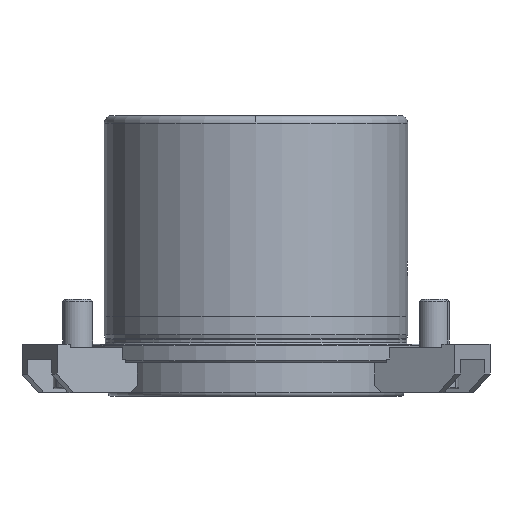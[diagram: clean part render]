
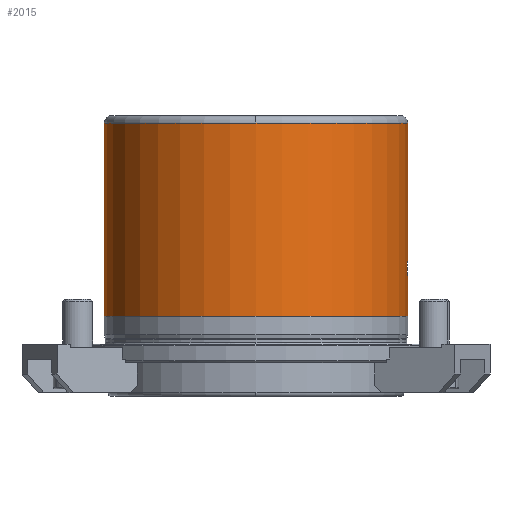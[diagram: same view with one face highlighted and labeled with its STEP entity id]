
A CAD part, front view. The second image highlights one B-rep face of the part: STEP entity #2015.
In plain terms, the highlighted cylindrical face has radius 40.495 mm (diameter 80.99 mm), a partial arc.
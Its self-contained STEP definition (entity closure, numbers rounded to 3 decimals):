
#954=CARTESIAN_POINT('',(40.495,0.,7.4));
#955=VERTEX_POINT('',#954);
#956=CARTESIAN_POINT('',(40.495,0.,17.4));
#957=VERTEX_POINT('',#956);
#958=CARTESIAN_POINT('',(40.495,0.,7.4));
#959=DIRECTION('',(0.0,0.0,1.0));
#960=VECTOR('',#959,10.);
#961=LINE('',#958,#960);
#962=EDGE_CURVE('',#955,#957,#961,.T.);
#964=CARTESIAN_POINT('',(-40.495,0.,7.4));
#965=VERTEX_POINT('',#964);
#973=CARTESIAN_POINT('',(-40.495,0.,59.));
#974=VERTEX_POINT('',#973);
#975=CARTESIAN_POINT('',(-40.495,0.,7.4));
#976=DIRECTION('',(0.0,0.0,1.0));
#977=VECTOR('',#976,51.6);
#978=LINE('',#975,#977);
#979=EDGE_CURVE('',#965,#974,#978,.T.);
#990=CARTESIAN_POINT('',(40.495,0.,59.0));
#991=VERTEX_POINT('',#990);
#999=CARTESIAN_POINT('',(40.495,0.,22.6));
#1000=VERTEX_POINT('',#999);
#1001=CARTESIAN_POINT('',(40.495,0.,22.6));
#1002=DIRECTION('',(0.0,0.0,1.0));
#1003=VECTOR('',#1002,36.4);
#1004=LINE('',#1001,#1003);
#1005=EDGE_CURVE('',#1000,#991,#1004,.T.);
#1062=CARTESIAN_POINT('',(0.,-40.495,59.0));
#1063=VERTEX_POINT('',#1062);
#1064=CARTESIAN_POINT('',(0.0,0.,59.0));
#1065=DIRECTION('',(0.0,0.0,-1.0));
#1066=DIRECTION('',(1.0,0.0,0.0));
#1067=AXIS2_PLACEMENT_3D('',#1064,#1065,#1066);
#1068=CIRCLE('',#1067,40.495);
#1069=EDGE_CURVE('',#1063,#974,#1068,.T.);
#1513=CARTESIAN_POINT('',(40.411,-2.6,20.0));
#1514=VERTEX_POINT('',#1513);
#1515=CARTESIAN_POINT('',(40.411,-2.6,20.0));
#1516=CARTESIAN_POINT('',(40.411,-2.6,20.163));
#1517=CARTESIAN_POINT('',(40.412,-2.584,20.332));
#1518=CARTESIAN_POINT('',(40.417,-2.519,20.668));
#1519=CARTESIAN_POINT('',(40.42,-2.468,20.835));
#1520=CARTESIAN_POINT('',(40.428,-2.336,21.155));
#1521=CARTESIAN_POINT('',(40.432,-2.253,21.309));
#1522=CARTESIAN_POINT('',(40.443,-2.062,21.593));
#1523=CARTESIAN_POINT('',(40.448,-1.954,21.723));
#1524=CARTESIAN_POINT('',(40.458,-1.723,21.954));
#1525=CARTESIAN_POINT('',(40.464,-1.593,22.062));
#1526=CARTESIAN_POINT('',(40.474,-1.309,22.253));
#1527=CARTESIAN_POINT('',(40.479,-1.155,22.336));
#1528=CARTESIAN_POINT('',(40.487,-0.835,22.468));
#1529=CARTESIAN_POINT('',(40.49,-0.668,22.519));
#1530=CARTESIAN_POINT('',(40.494,-0.332,22.584));
#1531=CARTESIAN_POINT('',(40.495,-0.163,22.6));
#1532=CARTESIAN_POINT('',(40.495,0.,22.6));
#1533=B_SPLINE_CURVE_WITH_KNOTS('',3,(#1515,#1516,#1517,#1518,#1519,#1520,#1521,#1522,#1523,#1524,#1525,#1526,#1527,#1528,#1529,#1530,#1531,#1532),.UNSPECIFIED.,.F.,.U.,(4,2,2,2,2,2,2,2,4),(0.0,0.49,0.98,1.47,1.959,2.449,2.939,3.429,3.919),.UNSPECIFIED.);
#1534=EDGE_CURVE('',#1514,#1000,#1533,.T.);
#1536=CARTESIAN_POINT('',(40.495,0.,17.4));
#1537=CARTESIAN_POINT('',(40.495,-0.163,17.4));
#1538=CARTESIAN_POINT('',(40.494,-0.332,17.416));
#1539=CARTESIAN_POINT('',(40.49,-0.668,17.481));
#1540=CARTESIAN_POINT('',(40.487,-0.835,17.532));
#1541=CARTESIAN_POINT('',(40.479,-1.155,17.664));
#1542=CARTESIAN_POINT('',(40.474,-1.309,17.747));
#1543=CARTESIAN_POINT('',(40.464,-1.593,17.938));
#1544=CARTESIAN_POINT('',(40.458,-1.723,18.046));
#1545=CARTESIAN_POINT('',(40.448,-1.954,18.277));
#1546=CARTESIAN_POINT('',(40.443,-2.062,18.407));
#1547=CARTESIAN_POINT('',(40.432,-2.253,18.691));
#1548=CARTESIAN_POINT('',(40.428,-2.336,18.845));
#1549=CARTESIAN_POINT('',(40.42,-2.468,19.165));
#1550=CARTESIAN_POINT('',(40.417,-2.519,19.332));
#1551=CARTESIAN_POINT('',(40.412,-2.584,19.668));
#1552=CARTESIAN_POINT('',(40.411,-2.6,19.837));
#1553=CARTESIAN_POINT('',(40.411,-2.6,20.0));
#1554=B_SPLINE_CURVE_WITH_KNOTS('',3,(#1536,#1537,#1538,#1539,#1540,#1541,#1542,#1543,#1544,#1545,#1546,#1547,#1548,#1549,#1550,#1551,#1552,#1553),.UNSPECIFIED.,.F.,.U.,(4,2,2,2,2,2,2,2,4),(11.756,12.246,12.736,13.226,13.715,14.205,14.695,15.185,15.675),.UNSPECIFIED.);
#1555=EDGE_CURVE('',#957,#1514,#1554,.T.);
#1983=CARTESIAN_POINT('',(0.0,0.,59.0));
#1984=DIRECTION('',(0.0,0.0,-1.0));
#1985=DIRECTION('',(1.0,0.0,0.0));
#1986=AXIS2_PLACEMENT_3D('',#1983,#1984,#1985);
#1987=CIRCLE('',#1986,40.495);
#1988=EDGE_CURVE('',#991,#1063,#1987,.T.);
#1994=CARTESIAN_POINT('',(0.0,0.,33.2));
#1995=DIRECTION('',(0.0,0.,-1.0));
#1996=DIRECTION('',(1.0,0.0,0.0));
#1997=AXIS2_PLACEMENT_3D('',#1994,#1995,#1996);
#1998=CYLINDRICAL_SURFACE('',#1997,40.495);
#1999=ORIENTED_EDGE('',*,*,#962,.T.);
#2000=ORIENTED_EDGE('',*,*,#1555,.T.);
#2001=ORIENTED_EDGE('',*,*,#1534,.T.);
#2002=ORIENTED_EDGE('',*,*,#1005,.T.);
#2003=ORIENTED_EDGE('',*,*,#1988,.T.);
#2004=ORIENTED_EDGE('',*,*,#1069,.T.);
#2005=ORIENTED_EDGE('',*,*,#979,.F.);
#2006=CARTESIAN_POINT('',(0.0,0.,7.4));
#2007=DIRECTION('',(0.0,0.0,-1.0));
#2008=DIRECTION('',(1.0,0.0,0.0));
#2009=AXIS2_PLACEMENT_3D('',#2006,#2007,#2008);
#2010=CIRCLE('',#2009,40.495);
#2011=EDGE_CURVE('',#955,#965,#2010,.T.);
#2012=ORIENTED_EDGE('',*,*,#2011,.F.);
#2013=EDGE_LOOP('',(#1999,#2000,#2001,#2002,#2003,#2004,#2005,#2012));
#2014=FACE_OUTER_BOUND('',#2013,.T.);
#2015=ADVANCED_FACE('',(#2014),#1998,.T.);
